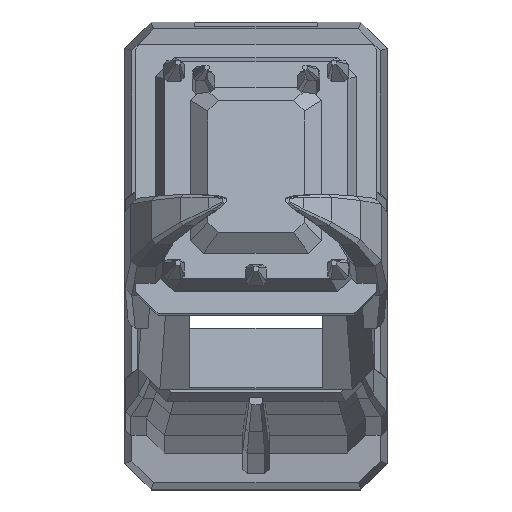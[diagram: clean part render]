
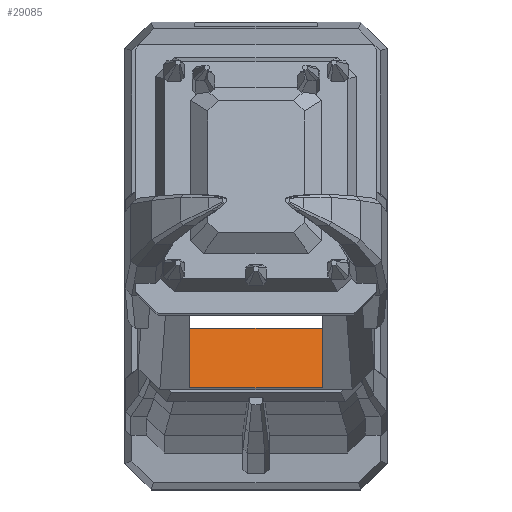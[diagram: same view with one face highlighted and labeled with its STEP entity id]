
A CAD part, top view. The second image highlights one B-rep face of the part: STEP entity #29085.
In plain terms, the highlighted planar face has unit normal (0, 0.208, 0.978).
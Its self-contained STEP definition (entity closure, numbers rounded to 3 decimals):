
#1629 = PLANE('',#1630);
#1630 = AXIS2_PLACEMENT_3D('',#1631,#1632,#1633);
#1631 = CARTESIAN_POINT('',(-9.2,-15.994,9.708));
#1632 = DIRECTION('',(0.,0.978,-0.208));
#1633 = DIRECTION('',(0.,0.208,0.978));
#2142 = PLANE('',#2143);
#2143 = AXIS2_PLACEMENT_3D('',#2144,#2145,#2146);
#2144 = CARTESIAN_POINT('',(7.6,-19.081,48.089));
#2145 = DIRECTION('',(1.,0.,0.));
#2146 = DIRECTION('',(0.,0.208,0.978));
#2229 = VERTEX_POINT('',#2230);
#2230 = CARTESIAN_POINT('',(7.6,-15.156,47.255));
#2266 = B_SPLINE_SURFACE_WITH_KNOTS('',1,1,(
    (#2267,#2268)
    ,(#2269,#2270
    )),.UNSPECIFIED.,.F.,.F.,.F.,(2,2),(2,2),(0.,22.),(0.,1.),
  .PIECEWISE_BEZIER_KNOTS.);
#2267 = CARTESIAN_POINT('',(-11.,-15.356,46.377));
#2268 = CARTESIAN_POINT('',(-10.3,-6.245,86.356));
#2269 = CARTESIAN_POINT('',(11.,-15.356,46.377));
#2270 = CARTESIAN_POINT('',(10.3,-6.245,86.356));
#2289 = EDGE_CURVE('',#2229,#2290,#2292,.T.);
#2290 = VERTEX_POINT('',#2291);
#2291 = CARTESIAN_POINT('',(7.6,-8.322,45.802));
#2292 = SURFACE_CURVE('',#2293,(#2297,#2304),.PCURVE_S1.);
#2293 = LINE('',#2294,#2295);
#2294 = CARTESIAN_POINT('',(7.6,-19.081,48.089));
#2295 = VECTOR('',#2296,1.);
#2296 = DIRECTION('',(0.,0.978,-0.208));
#2297 = PCURVE('',#2142,#2298);
#2298 = DEFINITIONAL_REPRESENTATION('',(#2299),#2303);
#2299 = LINE('',#2300,#2301);
#2300 = CARTESIAN_POINT('',(0.,0.));
#2301 = VECTOR('',#2302,1.);
#2302 = DIRECTION('',(0.,-1.));
#2303 = ( GEOMETRIC_REPRESENTATION_CONTEXT(2) 
PARAMETRIC_REPRESENTATION_CONTEXT() REPRESENTATION_CONTEXT('2D SPACE',''
  ) );
#2304 = PCURVE('',#2305,#2310);
#2305 = PLANE('',#2306);
#2306 = AXIS2_PLACEMENT_3D('',#2307,#2308,#2309);
#2307 = CARTESIAN_POINT('',(-7.6,-19.081,48.089));
#2308 = DIRECTION('',(0.,0.208,0.978));
#2309 = DIRECTION('',(1.,0.,0.));
#2310 = DEFINITIONAL_REPRESENTATION('',(#2311),#2315);
#2311 = LINE('',#2312,#2313);
#2312 = CARTESIAN_POINT('',(15.2,0.));
#2313 = VECTOR('',#2314,1.);
#2314 = DIRECTION('',(0.,1.));
#2315 = ( GEOMETRIC_REPRESENTATION_CONTEXT(2) 
PARAMETRIC_REPRESENTATION_CONTEXT() REPRESENTATION_CONTEXT('2D SPACE',''
  ) );
#2512 = EDGE_CURVE('',#2229,#2513,#2515,.T.);
#2513 = VERTEX_POINT('',#2514);
#2514 = CARTESIAN_POINT('',(-7.6,-15.156,47.255));
#2515 = SURFACE_CURVE('',#2516,(#2519,#2525),.PCURVE_S1.);
#2516 = B_SPLINE_CURVE_WITH_KNOTS('',1,(#2517,#2518),.UNSPECIFIED.,.F.,
  .F.,(2,2),(0.,1.),.PIECEWISE_BEZIER_KNOTS.);
#2517 = CARTESIAN_POINT('',(7.6,-15.156,47.255));
#2518 = CARTESIAN_POINT('',(-7.6,-15.156,47.255));
#2519 = PCURVE('',#2266,#2520);
#2520 = DEFINITIONAL_REPRESENTATION('',(#2521),#2524);
#2521 = B_SPLINE_CURVE_WITH_KNOTS('',1,(#2522,#2523),.UNSPECIFIED.,.F.,
  .F.,(2,2),(0.,1.),.PIECEWISE_BEZIER_KNOTS.);
#2522 = CARTESIAN_POINT('',(18.611,0.022));
#2523 = CARTESIAN_POINT('',(3.389,0.022));
#2524 = ( GEOMETRIC_REPRESENTATION_CONTEXT(2) 
PARAMETRIC_REPRESENTATION_CONTEXT() REPRESENTATION_CONTEXT('2D SPACE',''
  ) );
#2525 = PCURVE('',#2305,#2526);
#2526 = DEFINITIONAL_REPRESENTATION('',(#2527),#2530);
#2527 = B_SPLINE_CURVE_WITH_KNOTS('',1,(#2528,#2529),.UNSPECIFIED.,.F.,
  .F.,(2,2),(0.,1.),.PIECEWISE_BEZIER_KNOTS.);
#2528 = CARTESIAN_POINT('',(15.2,4.013));
#2529 = CARTESIAN_POINT('',(0.,4.013));
#2530 = ( GEOMETRIC_REPRESENTATION_CONTEXT(2) 
PARAMETRIC_REPRESENTATION_CONTEXT() REPRESENTATION_CONTEXT('2D SPACE',''
  ) );
#2570 = PLANE('',#2571);
#2571 = AXIS2_PLACEMENT_3D('',#2572,#2573,#2574);
#2572 = CARTESIAN_POINT('',(-7.6,-19.081,48.089));
#2573 = DIRECTION('',(1.,0.,0.));
#2574 = DIRECTION('',(0.,0.208,0.978));
#2639 = EDGE_CURVE('',#2513,#2640,#2642,.T.);
#2640 = VERTEX_POINT('',#2641);
#2641 = CARTESIAN_POINT('',(-7.6,-8.322,45.802));
#2642 = SURFACE_CURVE('',#2643,(#2647,#2654),.PCURVE_S1.);
#2643 = LINE('',#2644,#2645);
#2644 = CARTESIAN_POINT('',(-7.6,-19.081,48.089));
#2645 = VECTOR('',#2646,1.);
#2646 = DIRECTION('',(0.,0.978,-0.208));
#2647 = PCURVE('',#2570,#2648);
#2648 = DEFINITIONAL_REPRESENTATION('',(#2649),#2653);
#2649 = LINE('',#2650,#2651);
#2650 = CARTESIAN_POINT('',(0.,0.));
#2651 = VECTOR('',#2652,1.);
#2652 = DIRECTION('',(0.,-1.));
#2653 = ( GEOMETRIC_REPRESENTATION_CONTEXT(2) 
PARAMETRIC_REPRESENTATION_CONTEXT() REPRESENTATION_CONTEXT('2D SPACE',''
  ) );
#2654 = PCURVE('',#2305,#2655);
#2655 = DEFINITIONAL_REPRESENTATION('',(#2656),#2660);
#2656 = LINE('',#2657,#2658);
#2657 = CARTESIAN_POINT('',(0.,0.));
#2658 = VECTOR('',#2659,1.);
#2659 = DIRECTION('',(0.,1.));
#2660 = ( GEOMETRIC_REPRESENTATION_CONTEXT(2) 
PARAMETRIC_REPRESENTATION_CONTEXT() REPRESENTATION_CONTEXT('2D SPACE',''
  ) );
#29085 = ADVANCED_FACE('',(#29086),#2305,.T.);
#29086 = FACE_BOUND('',#29087,.T.);
#29087 = EDGE_LOOP('',(#29088,#29089,#29090,#29091));
#29088 = ORIENTED_EDGE('',*,*,#2639,.F.);
#29089 = ORIENTED_EDGE('',*,*,#2512,.F.);
#29090 = ORIENTED_EDGE('',*,*,#2289,.T.);
#29091 = ORIENTED_EDGE('',*,*,#29092,.F.);
#29092 = EDGE_CURVE('',#2640,#2290,#29093,.T.);
#29093 = SURFACE_CURVE('',#29094,(#29098,#29104),.PCURVE_S1.);
#29094 = LINE('',#29095,#29096);
#29095 = CARTESIAN_POINT('',(-8.4,-8.322,45.802));
#29096 = VECTOR('',#29097,1.);
#29097 = DIRECTION('',(1.,-0.,0.));
#29098 = PCURVE('',#2305,#29099);
#29099 = DEFINITIONAL_REPRESENTATION('',(#29100),#29103);
#29100 = B_SPLINE_CURVE_WITH_KNOTS('',1,(#29101,#29102),.UNSPECIFIED.,
  .F.,.F.,(2,2),(0.8,16.),.PIECEWISE_BEZIER_KNOTS.);
#29101 = CARTESIAN_POINT('',(0.,11.));
#29102 = CARTESIAN_POINT('',(15.2,11.));
#29103 = ( GEOMETRIC_REPRESENTATION_CONTEXT(2) 
PARAMETRIC_REPRESENTATION_CONTEXT() REPRESENTATION_CONTEXT('2D SPACE',''
  ) );
#29104 = PCURVE('',#1629,#29105);
#29105 = DEFINITIONAL_REPRESENTATION('',(#29106),#29110);
#29106 = LINE('',#29107,#29108);
#29107 = CARTESIAN_POINT('',(36.9,0.8));
#29108 = VECTOR('',#29109,1.);
#29109 = DIRECTION('',(0.,1.));
#29110 = ( GEOMETRIC_REPRESENTATION_CONTEXT(2) 
PARAMETRIC_REPRESENTATION_CONTEXT() REPRESENTATION_CONTEXT('2D SPACE',''
  ) );
